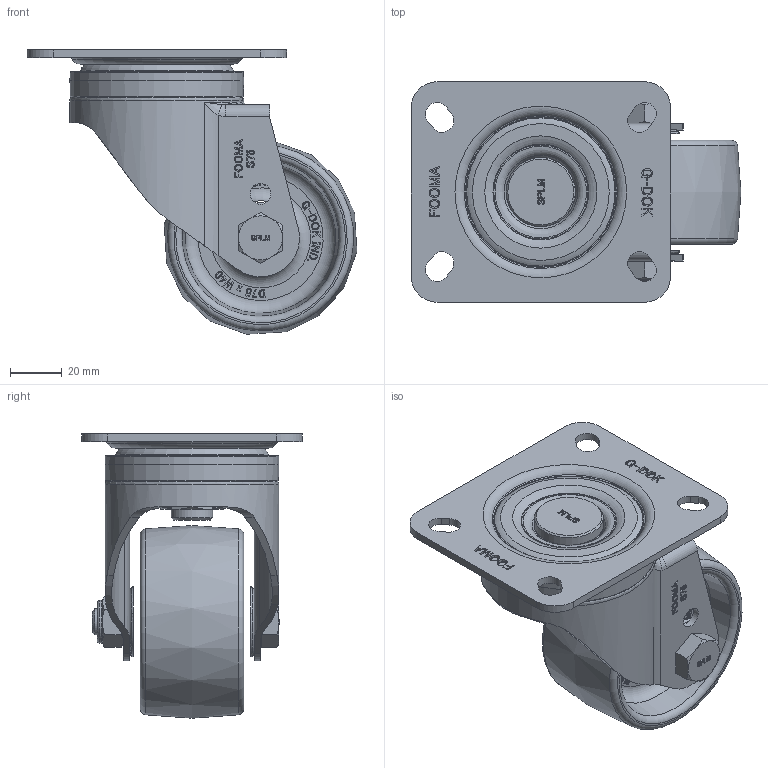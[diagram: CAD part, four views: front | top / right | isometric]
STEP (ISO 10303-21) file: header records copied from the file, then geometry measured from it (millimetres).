
FILE_DESCRIPTION(/* description */ (''),/* implementation_level */ '2;1');
FILE_NAME(/* name */ '\\192.168.10.38\지덕공유\1.기술연구소\2.연구개발 완료\완료_98.스테인레스캐스터 개발건_2023.10.26\제품설계\3D\홈페이지용\NYP\STP\SPLM-75-ASF-NYP-PEU.stp',/* time_stamp */ '2025-07-17T11:42:36+09:00',/* author */ ('admin'),/* organization */ ('지덕산업'),/* preprocessor_version */ 'ST-DEVELOPER v18.1',/* originating_system */ 'Autodesk Inventor 2021',/* authorisation */ '');
FILE_SCHEMA (('CONFIG_CONTROL_DESIGN'));
Length unit declared in the file: millimetre
Products named in the file (1): SPLM-75-ASF-NYP-PEU
Bounding box: 127.13 x 85 x 109.63 mm (x, y, z)
Volume: 220189.9 mm3; surface area: 68021.6 mm2
Topology: 1 solids, 1 shells, 1221 faces, 3311 edges, 2189 vertices
Faces by surface type: plane 611, bspline 424, cylinder 97, cone 51, torus 38
Full cylindrical faces by diameter (mm): 8 x2, 10 x1, 11 x1, 16 x2, 16.5 x1, 26.6 x1, 54 x1, 67 x1
Entity records: 39633 total; most frequent: CARTESIAN_POINT 11836, ORIENTED_EDGE 6614, DIRECTION 4212, EDGE_CURVE 3307, VERTEX_POINT 2189, LINE 1964, VECTOR 1964, EDGE_LOOP 1336
